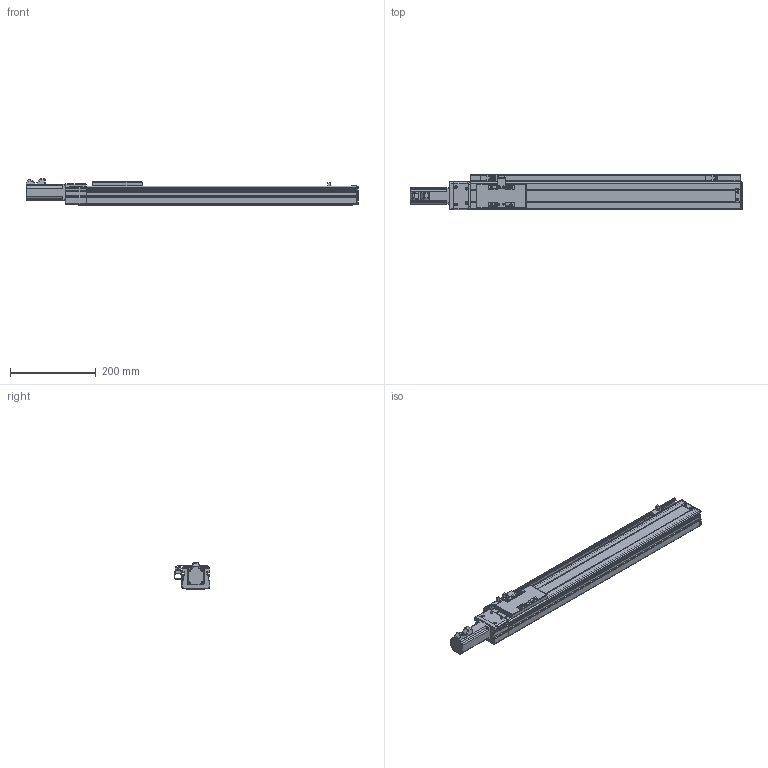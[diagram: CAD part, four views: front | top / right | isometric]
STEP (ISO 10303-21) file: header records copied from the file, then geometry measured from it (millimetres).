
FILE_DESCRIPTION (( 'STEP AP203' ), '1' );
FILE_NAME ('VT6-L10-C-S480-BC-P10-C4.STEP', '2015-10-26T05:58:54', ( '' ), ( '' ), 'SwSTEP 2.0', 'SolidWorks 2013', '' );
FILE_SCHEMA (( 'CONFIG_CONTROL_DESIGN' ));
Length unit declared in the file: millimetre
Products named in the file (15): ET6-BC耜啣_480; ET6-BC癹弇羲壽羞_480; T6-賑雄殤; T6-裔啣; T6-揤輸; T6-覜茼え; T6-綴傷裔; EE-XS674; ET6-BC絳寢_俴最480; ET6-BC滅鳥湍_480; T6-BCヶ傷裔揤啣; T6-BCヶ傷裔; 侂狟100W MSMD012G1U; ET6-BC佪裝_480; VT6-L10-C-S480-BC-P10-C4
Assembly tree (17 placements, depth 2):
  VT6-L10-C-S480-BC-P10-C4
    ET6-BC耜啣_480  x2
    ET6-BC癹弇羲壽羞_480
    T6-賑雄殤
    T6-裔啣
    T6-揤輸
    T6-覜茼え
    T6-綴傷裔
    EE-XS674  x3
    ET6-BC絳寢_俴最480
    ET6-BC滅鳥湍_480
    T6-BCヶ傷裔揤啣
    T6-BCヶ傷裔
    侂狟100W MSMD012G1U
    ET6-BC佪裝_480
Bounding box: 774 x 83 x 61 mm (x, y, z)
Volume: 876592 mm3; surface area: 498621.1 mm2
Topology: 17 solids, 17 shells, 892 faces, 2361 edges, 1492 vertices
Faces by surface type: cylinder 412, plane 378, cone 56, torus 28, sphere 18
Entity records: 27402 total; most frequent: CARTESIAN_POINT 4753, DIRECTION 4577, ORIENTED_EDGE 4248, EDGE_CURVE 2124, AXIS2_PLACEMENT_3D 1668, VERTEX_POINT 1352, VECTOR 1241, LINE 1241
